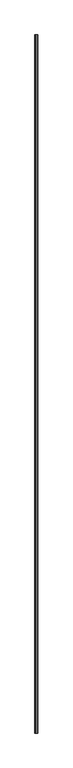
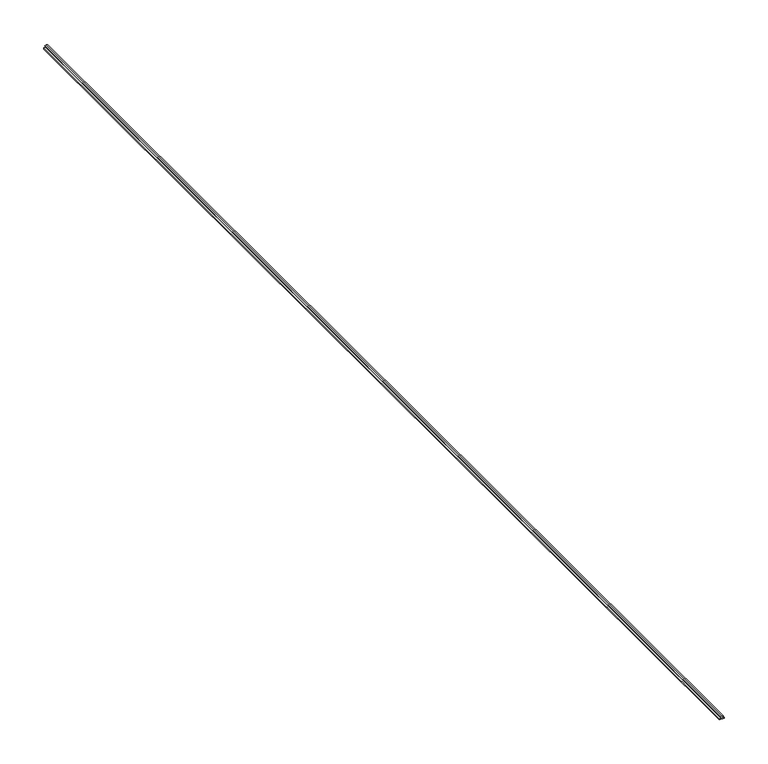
"""IFC4 building model written with IfcOpenShell, lengths in millimetres: proxy geometry, HAFELE^BUS BAR_ALUMINUM-BUS BAR (MOD LENGTH 60.4375)."""

from ifc_helpers import new_model, si_unit, frame, origin, place, context, project, spatial, polyline, outline, extrude, source, transform, mapped, element, save


def generic_models_998bad83(model_context):
    return source(origin(), model_context, "Body", "SweptSolid", [
        extrude(outline(polyline([(1.5875, 2.159), (1.5875, 0.0), (0.0, 0.0), (0.0, 6.35), (1.5875, 6.35), (1.5875, 4.191), (3.96875, 5.2149375), (4.7625, 3.175), (3.96875, 1.1350625), (1.5875, 2.159)])), frame((0.0, 0.0, 0.0), z_axis=(0.0, 1.0, 0.0), x_axis=(0.0, 0.0, 1.0)), (0.0, 0.0, 1.0), 1535.1125),
    ])


if __name__ == "__main__":
    model = new_model("IFC4")
    model_context = context("Model", 3, world=origin())
    ifc_project = project(units=[si_unit("LENGTHUNIT", "METRE", prefix="MILLI")], contexts=[model_context])
    site = spatial("IfcSite", under=ifc_project)
    building = spatial("IfcBuilding", under=site)
    placement = place(None, origin())
    generic_models_shape = generic_models_998bad83(model_context)
    element("IfcBuildingElementProxy", 1, Name="HAFELE^BUS BAR_ALUMINUM-BUS BAR (MOD LENGTH 60.4375)", ObjectType="HAFELE^BUS BAR_ALUMINUM-BUS BAR (MOD LENGTH 60.4375)", at=placement, inside=building, context=model_context, shape_type="MappedRepresentation", body=[
        mapped(generic_models_shape, transform((0.0, 0.0, 0.0), x_axis=(1.0, 0.0, 0.0), y_axis=(0.0, 1.0, 0.0), z_axis=(0.0, 0.0, 1.0))),
    ])
    save(model, "model.ifc")
